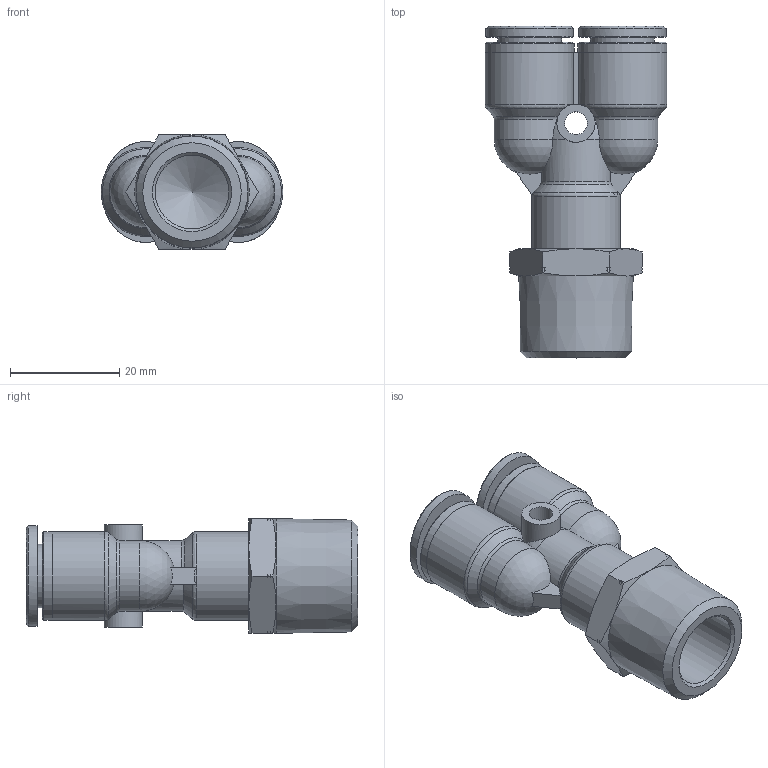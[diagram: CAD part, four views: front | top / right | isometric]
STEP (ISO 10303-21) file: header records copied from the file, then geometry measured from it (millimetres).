
FILE_DESCRIPTION((''),'2;1');
FILE_NAME('C:\Users\user0117\Desktop\김진일\G-FITTING INCH\3-8\PDF\G-FITTING INCH (STEP)\GPWT 3-8 R04.stp','2020-04-22T10:06:56',('user0117'),(''),'Autodesk Inventor 2013','Autodesk Inventor 2013','');
FILE_SCHEMA(('AUTOMOTIVE_DESIGN { 1 0 10303 214 1 1 1 1 }'));
Length unit declared in the file: millimetre
Products named in the file (6): GPWT 3-8 R04; GPY BODY 3-8(PLASTIC); G-COLLAR 3-8L; COLLAR G3-8L; SLEEVE G3-8; GPWT BODY 3-8 R04(BRASS)
Assembly tree (6 placements, depth 3):
  GPWT 3-8 R04
    GPY BODY 3-8(PLASTIC)
    G-COLLAR 3-8L  x2
      COLLAR G3-8L
      SLEEVE G3-8
    GPWT BODY 3-8 R04(BRASS)
Bounding box: 33.3 x 60.8 x 21 mm (x, y, z)
Volume: 13798.8 mm3; surface area: 10018.4 mm2
Topology: 6 solids, 6 shells, 734 faces, 2053 edges, 1363 vertices
Faces by surface type: plane 566, bspline 74, cone 51, cylinder 31, torus 6, sphere 6
Full cylindrical faces by diameter (mm): 4.2 x1, 7 x2, 9.7 x1, 9.75 x7, 11.7 x2, 13.5 x1, 16.3 x3
Entity records: 13674 total; most frequent: CARTESIAN_POINT 3485, ORIENTED_EDGE 2240, DIRECTION 1796, EDGE_CURVE 1120, VECTOR 830, LINE 830, VERTEX_POINT 754, AXIS2_PLACEMENT_3D 483
